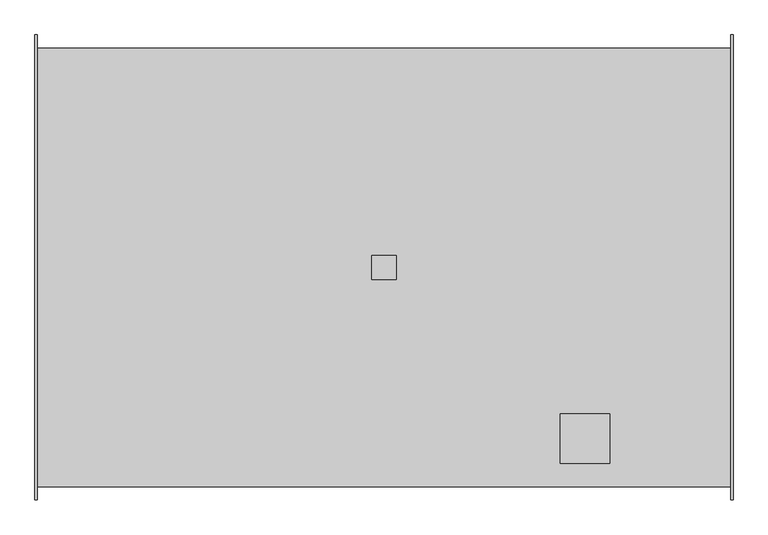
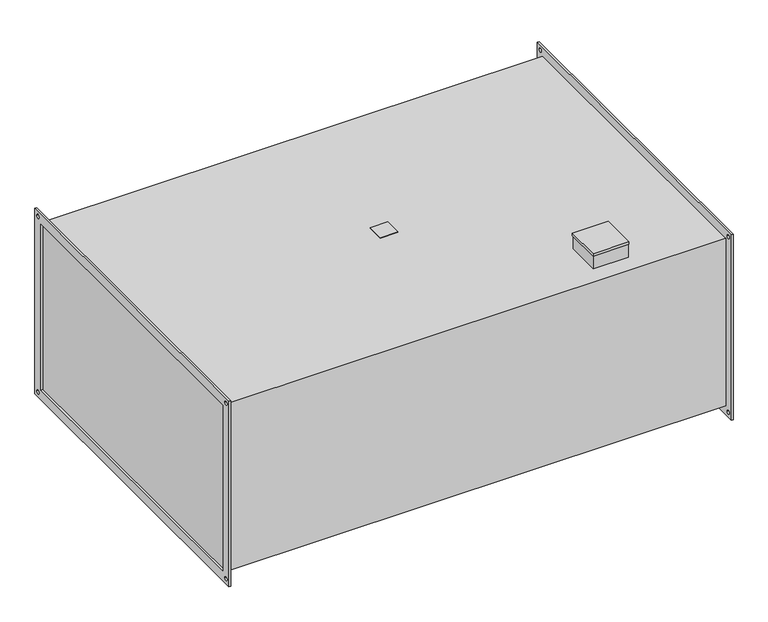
"""IFC4 building model written with IfcOpenShell, lengths in millimetres: damper geometry, KORF_Секция бактерицидной обработки воздуха_SBOW : SBOW 90-50/159 (36)."""

from ifc_helpers import new_model, si_unit, point, frame, frame_2d, origin, place, context, project, spatial, polyline, circle_curve, trimmed, segment, composite_curve, outline, extrude, faceted_brep, source, transform, mapped, element, save


def damper_d8eb1558(model_context):
    return source(origin(), model_context, "Body", "SolidModel", [
        extrude(outline(polyline([(695.0, -25.0), (695.0, 25.0), (745.0, 25.0), (745.0, -25.0), (695.0, -25.0)])), frame((0.0, 0.0, 253.0), z_axis=(0.0, 0.0, 1.0), x_axis=(1.0, 0.0, 0.0)), (0.0, 0.0, 1.0), 2.0),
        faceted_brep([(1186.0, -302.0, 300.0), (1084.0, -302.0, 300.0), (1084.0, -404.0, 300.0), (1186.0, -404.0, 300.0), (1186.0, -302.0, 293.0), (1186.0, -404.0, 293.0), (1084.0, -404.0, 293.0), (1084.0, -302.0, 293.0), (1185.0, -303.0, 293.0), (1085.0, -303.0, 293.0), (1085.0, -403.0, 293.0), (1185.0, -403.0, 293.0), (1185.0, -303.0, 253.0), (1185.0, -403.0, 253.0), (1085.0, -403.0, 253.0), (1085.0, -303.0, 253.0)], [[[0, 1, 2, 3]], [[4, 5, 6, 7], [8, 9, 10, 11]], [[1, 0, 4, 7]], [[2, 1, 7, 6]], [[3, 2, 6, 5]], [[0, 3, 5, 4]], [[12, 13, 14, 15]], [[12, 15, 9, 8]], [[15, 14, 10, 9]], [[14, 13, 11, 10]], [[13, 12, 8, 11]]]),
        extrude(outline(polyline([(-480.0, 280.0), (480.0, 280.0), (480.0, -280.0), (-480.0, -280.0), (-480.0, 280.0)]), holes=[polyline([(-450.0, 250.0), (-450.0, -250.0), (450.0, -250.0), (450.0, 250.0), (-450.0, 250.0)]), composite_curve([segment(trimmed(circle_curve(frame_2d((465.0, 265.0)), 5.5), [point((459.5, 265.0))], [point((470.5, 265.0))], True, "CARTESIAN"), True, "CONTINUOUS"), segment(trimmed(circle_curve(frame_2d((465.0, 265.0)), 5.5), [point((470.5, 265.0))], [point((459.5, 265.0))], True, "CARTESIAN"), True, "CONTINUOUS")], self_intersect=False), composite_curve([segment(trimmed(circle_curve(frame_2d((-465.0, 265.0)), 5.5), [point((-470.5, 265.0))], [point((-459.5, 265.0))], True, "CARTESIAN"), True, "CONTINUOUS"), segment(trimmed(circle_curve(frame_2d((-465.0, 265.0)), 5.5), [point((-459.5, 265.0))], [point((-470.5, 265.0))], True, "CARTESIAN"), True, "CONTINUOUS")], self_intersect=False), composite_curve([segment(trimmed(circle_curve(frame_2d((-465.0, -265.0)), 5.5), [point((-470.5, -265.0))], [point((-459.5, -265.0))], True, "CARTESIAN"), True, "CONTINUOUS"), segment(trimmed(circle_curve(frame_2d((-465.0, -265.0)), 5.5), [point((-459.5, -265.0))], [point((-470.5, -265.0))], True, "CARTESIAN"), True, "CONTINUOUS")], self_intersect=False), composite_curve([segment(trimmed(circle_curve(frame_2d((465.0, -265.0)), 5.5), [point((459.5, -265.0))], [point((470.5, -265.0))], True, "CARTESIAN"), True, "CONTINUOUS"), segment(trimmed(circle_curve(frame_2d((465.0, -265.0)), 5.5), [point((470.5, -265.0))], [point((459.5, -265.0))], True, "CARTESIAN"), True, "CONTINUOUS")], self_intersect=False)]), frame((1435.0, 0.0, 0.0), z_axis=(1.0, 0.0, 0.0), x_axis=(0.0, 1.0, 0.0)), (0.0, 0.0, 1.0), 5.0),
        extrude(outline(polyline([(-480.0, 280.0), (480.0, 280.0), (480.0, -280.0), (-480.0, -280.0), (-480.0, 280.0)]), holes=[polyline([(-450.0, 250.0), (-450.0, -250.0), (450.0, -250.0), (450.0, 250.0), (-450.0, 250.0)]), composite_curve([segment(trimmed(circle_curve(frame_2d((465.0, 265.0)), 5.5), [point((459.5, 265.0))], [point((470.5, 265.0))], True, "CARTESIAN"), True, "CONTINUOUS"), segment(trimmed(circle_curve(frame_2d((465.0, 265.0)), 5.5), [point((470.5, 265.0))], [point((459.5, 265.0))], True, "CARTESIAN"), True, "CONTINUOUS")], self_intersect=False), composite_curve([segment(trimmed(circle_curve(frame_2d((-465.0, 265.0)), 5.5), [point((-470.5, 265.0))], [point((-459.5, 265.0))], True, "CARTESIAN"), True, "CONTINUOUS"), segment(trimmed(circle_curve(frame_2d((-465.0, 265.0)), 5.5), [point((-459.5, 265.0))], [point((-470.5, 265.0))], True, "CARTESIAN"), True, "CONTINUOUS")], self_intersect=False), composite_curve([segment(trimmed(circle_curve(frame_2d((-465.0, -265.0)), 5.5), [point((-470.5, -265.0))], [point((-459.5, -265.0))], True, "CARTESIAN"), True, "CONTINUOUS"), segment(trimmed(circle_curve(frame_2d((-465.0, -265.0)), 5.5), [point((-459.5, -265.0))], [point((-470.5, -265.0))], True, "CARTESIAN"), True, "CONTINUOUS")], self_intersect=False), composite_curve([segment(trimmed(circle_curve(frame_2d((465.0, -265.0)), 5.5), [point((459.5, -265.0))], [point((470.5, -265.0))], True, "CARTESIAN"), True, "CONTINUOUS"), segment(trimmed(circle_curve(frame_2d((465.0, -265.0)), 5.5), [point((470.5, -265.0))], [point((459.5, -265.0))], True, "CARTESIAN"), True, "CONTINUOUS")], self_intersect=False)]), frame((0.0, 0.0, 0.0), z_axis=(1.0, 0.0, 0.0), x_axis=(0.0, 1.0, 0.0)), (0.0, 0.0, 1.0), 5.0),
        extrude(outline(polyline([(1435.0, 453.0), (1435.0, -453.0), (5.0, -453.0), (5.0, 453.0), (1435.0, 453.0)])), frame((0.0, 0.0, -253.0), z_axis=(0.0, 0.0, 1.0), x_axis=(1.0, 0.0, 0.0)), (0.0, 0.0, 1.0), 506.0),
    ])


if __name__ == "__main__":
    model = new_model("IFC4")
    model_context = context("Model", 3, world=origin())
    ifc_project = project(units=[si_unit("LENGTHUNIT", "METRE", prefix="MILLI")], contexts=[model_context])
    site = spatial("IfcSite", under=ifc_project)
    building = spatial("IfcBuilding", under=site)
    placement = place(None, origin())
    damper_shape = damper_d8eb1558(model_context)
    element("IfcDamper", 1, ObjectType="KORF_Секция бактерицидной обработки воздуха_SBOW : SBOW 90-50/159 (36)", at=placement, inside=building, context=model_context, shape_type="MappedRepresentation", body=[
        mapped(damper_shape, transform((0.0, 0.0, 0.0), x_axis=(1.0, 0.0, 0.0), y_axis=(0.0, 1.0, 0.0), z_axis=(0.0, 0.0, 1.0))),
    ])
    save(model, "model.ifc")
